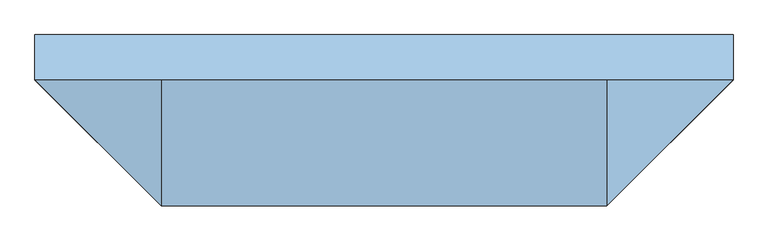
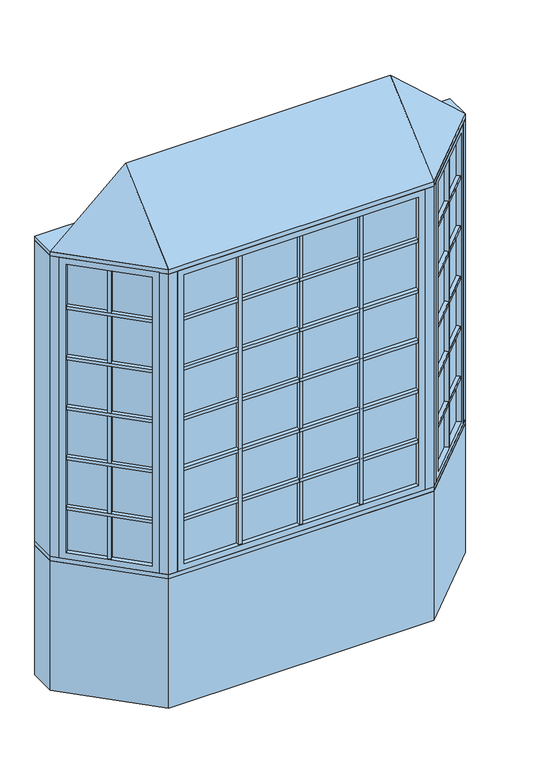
"""IFC4 building model written with IfcOpenShell, lengths in millimetres: window geometry, Pollard_Windows_Tudor Casement Bows and Bays : AML-BAY 45 AFR0618-12-500_GC."""

from ifc_helpers import new_model, si_unit, frame, origin, origin_with_axes, place, context, project, spatial, polyline, outline, extrude, faceted_brep, source, transform, mapped, element, save


def window_98602385(model_context):
    return source(origin(), model_context, "Body", "SolidModel", [
        extrude(outline(polyline([(809.3614193, -437.1108753), (793.8050701, -421.5545261), (1101.616171, -113.7434252), (1117.1725202, -129.2997743), (809.3614193, -437.1108753)])), frame((0.0, 0.0, 1690.998), z_axis=(0.0, 0.0, 1.0), x_axis=(1.0, 0.0, 0.0)), (0.0, 0.0, 1.0), 18.0),
        extrude(outline(polyline([(790.2129677, -417.9624236), (774.6566185, -402.4060744), (1082.4677194, -94.5949735), (1098.0240686, -110.1513227), (790.2129677, -417.9624236)])), frame((0.0, 0.0, 1690.998), z_axis=(0.0, 0.0, 1.0), x_axis=(1.0, 0.0, 0.0)), (0.0, 0.0, 1.0), 18.0),
        extrude(outline(polyline([(809.3614193, -437.1108753), (793.8050701, -421.5545261), (1101.616171, -113.7434252), (1117.1725202, -129.2997743), (809.3614193, -437.1108753)])), frame((0.0, 0.0, 1090.998), z_axis=(0.0, 0.0, 1.0), x_axis=(1.0, 0.0, 0.0)), (0.0, 0.0, 1.0), 18.0),
        extrude(outline(polyline([(790.2129677, -417.9624236), (774.6566185, -402.4060744), (1082.4677194, -94.5949735), (1098.0240686, -110.1513227), (790.2129677, -417.9624236)])), frame((0.0, 0.0, 1090.998), z_axis=(0.0, 0.0, 1.0), x_axis=(1.0, 0.0, 0.0)), (0.0, 0.0, 1.0), 18.0),
        extrude(outline(polyline([(809.3614193, -437.1108753), (793.8050701, -421.5545261), (1101.616171, -113.7434252), (1117.1725202, -129.2997743), (809.3614193, -437.1108753)])), frame((0.0, 0.0, 1390.998), z_axis=(0.0, 0.0, 1.0), x_axis=(1.0, 0.0, 0.0)), (0.0, 0.0, 1.0), 18.0),
        extrude(outline(polyline([(790.2129677, -417.9624236), (774.6566185, -402.4060744), (1082.4677194, -94.5949735), (1098.0240686, -110.1513227), (790.2129677, -417.9624236)])), frame((0.0, 0.0, 1390.998), z_axis=(0.0, 0.0, 1.0), x_axis=(1.0, 0.0, 0.0)), (0.0, 0.0, 1.0), 18.0),
        extrude(outline(polyline([(809.3614193, -437.1108753), (793.8050701, -421.5545261), (1101.616171, -113.7434252), (1117.1725202, -129.2997743), (809.3614193, -437.1108753)])), frame((0.0, 0.0, 1990.998), z_axis=(0.0, 0.0, 1.0), x_axis=(1.0, 0.0, 0.0)), (0.0, 0.0, 1.0), 18.0),
        extrude(outline(polyline([(790.2129677, -417.9624236), (774.6566185, -402.4060744), (1082.4677194, -94.5949735), (1098.0240686, -110.1513227), (790.2129677, -417.9624236)])), frame((0.0, 0.0, 1990.998), z_axis=(0.0, 0.0, 1.0), x_axis=(1.0, 0.0, 0.0)), (0.0, 0.0, 1.0), 18.0),
        extrude(outline(polyline([(809.3614193, -437.1108753), (793.8050701, -421.5545261), (1101.616171, -113.7434252), (1117.1725202, -129.2997743), (809.3614193, -437.1108753)])), frame((0.0, 0.0, 2290.998), z_axis=(0.0, 0.0, 1.0), x_axis=(1.0, 0.0, 0.0)), (0.0, 0.0, 1.0), 18.0),
        extrude(outline(polyline([(790.2129677, -417.9624236), (774.6566185, -402.4060744), (1082.4677194, -94.5949735), (1098.0240686, -110.1513227), (790.2129677, -417.9624236)])), frame((0.0, 0.0, 2290.998), z_axis=(0.0, 0.0, 1.0), x_axis=(1.0, 0.0, 0.0)), (0.0, 0.0, 1.0), 18.0),
        extrude(outline(polyline([(954.0745816, -261.2850146), (969.6309308, -276.8413638), (956.9030087, -289.5692858), (941.3466595, -274.0129366), (954.0745816, -261.2850146)])), frame((0.0, 0.0, 835.8628), z_axis=(0.0, 0.0, 1.0), x_axis=(1.0, 0.0, 0.0)), (0.0, 0.0, 1.0), 1728.2704),
        extrude(outline(polyline([(950.4824791, -257.6929121), (937.7545571, -270.4208342), (922.1982079, -254.864485), (934.92613, -242.1365629), (950.4824791, -257.6929121)])), frame((0.0, 0.0, 835.8628), z_axis=(0.0, 0.0, 1.0), x_axis=(1.0, 0.0, 0.0)), (0.0, 0.0, 1.0), 1728.2704),
        extrude(outline(polyline([(1110.5964271, -104.763169), (784.824814, -430.5347822), (781.2327115, -426.9426797), (1107.0043247, -101.1710666), (1110.5964271, -104.763169)])), frame((0.0, 0.0, 823.1628), z_axis=(0.0, 0.0, 1.0), x_axis=(1.0, 0.0, 0.0)), (0.0, 0.0, 1.0), 1753.6704),
        faceted_brep([(1101.616171, -113.7434252, 835.8628), (1119.5766833, -131.7039374, 835.8628), (1119.5766833, -131.7039374, 2564.1332), (1101.616171, -113.7434252, 2564.1332), (1107.0043247, -101.1710666, 823.1628), (1110.5964271, -104.763169, 823.1628), (1110.5964271, -104.763169, 2576.8332), (1107.0043247, -101.1710666, 2576.8332), (1080.0635563, -92.1908105, 835.8628), (1098.0240686, -110.1513227, 835.8628), (1098.0240686, -110.1513227, 2564.1332), (1080.0635563, -92.1908105, 2564.1332), (1144.9369265, -106.3436941, 799.998), (1105.4237996, -66.8305672, 799.998), (1105.4237996, -66.8305672, 2599.998), (1144.9369265, -106.3436941, 2599.998), (811.7655823, -439.5150383, 2564.1332), (793.8050701, -421.5545261, 2564.1332), (784.824814, -430.5347822, 2576.8332), (781.2327115, -426.9426797, 2576.8332), (790.2129677, -417.9624236, 2564.1332), (772.2524554, -400.0019114, 2564.1332), (746.8922121, -425.3621547, 2599.998), (786.4053391, -464.8752816, 2599.998), (811.7655823, -439.5150383, 835.8628), (793.8050701, -421.5545261, 835.8628), (784.824814, -430.5347822, 823.1628), (781.2327115, -426.9426797, 823.1628), (790.2129677, -417.9624236, 835.8628), (772.2524554, -400.0019114, 835.8628), (746.8922121, -425.3621547, 799.998), (786.4053391, -464.8752816, 799.998)], [[[0, 1, 2, 3]], [[4, 5, 6, 7]], [[8, 9, 10, 11]], [[12, 13, 14, 15]], [[3, 2, 16, 17]], [[7, 6, 18, 19]], [[11, 10, 20, 21]], [[15, 14, 22, 23]], [[17, 16, 24, 25]], [[19, 18, 26, 27]], [[21, 20, 28, 29]], [[23, 22, 30, 31]], [[25, 24, 1, 0]], [[5, 26, 18, 6], [3, 17, 25, 0]], [[27, 26, 5, 4]], [[7, 19, 27, 4], [9, 28, 20, 10]], [[29, 28, 9, 8]], [[13, 30, 22, 14], [11, 21, 29, 8]], [[31, 30, 13, 12]], [[15, 23, 31, 12], [1, 24, 16, 2]]]),
        extrude(outline(polyline([(352.4427, -474.8306207), (352.4427, -496.8306207), (334.4427, -496.8306207), (334.4427, -474.8306207), (352.4427, -474.8306207)])), frame((0.0, 0.0, 835.8628), z_axis=(0.0, 0.0, 1.0), x_axis=(1.0, 0.0, 0.0)), (0.0, 0.0, 1.0), 1728.2704),
        extrude(outline(polyline([(352.4427, -469.7506207), (334.4427, -469.7506207), (334.4427, -447.7506207), (352.4427, -447.7506207), (352.4427, -469.7506207)])), frame((0.0, 0.0, 835.8628), z_axis=(0.0, 0.0, 1.0), x_axis=(1.0, 0.0, 0.0)), (0.0, 0.0, 1.0), 1728.2704),
        extrude(outline(polyline([(-334.4427, -474.8306207), (-334.4427, -496.8306207), (-352.4427, -496.8306207), (-352.4427, -474.8306207), (-334.4427, -474.8306207)])), frame((0.0, 0.0, 835.8628), z_axis=(0.0, 0.0, 1.0), x_axis=(1.0, 0.0, 0.0)), (0.0, 0.0, 1.0), 1728.2704),
        extrude(outline(polyline([(-334.4427, -469.7506207), (-352.4427, -469.7506207), (-352.4427, -447.7506207), (-334.4427, -447.7506207), (-334.4427, -469.7506207)])), frame((0.0, 0.0, 835.8628), z_axis=(0.0, 0.0, 1.0), x_axis=(1.0, 0.0, 0.0)), (0.0, 0.0, 1.0), 1728.2704),
        extrude(outline(polyline([(-665.1852, -496.8306207), (-665.1852, -474.8306207), (665.1852, -474.8306207), (665.1852, -496.8306207), (-665.1852, -496.8306207)])), frame((0.0, 0.0, 1090.998), z_axis=(0.0, 0.0, 1.0), x_axis=(1.0, 0.0, 0.0)), (0.0, 0.0, 1.0), 18.0),
        extrude(outline(polyline([(-665.1852, -469.7506207), (-665.1852, -447.7506207), (665.1852, -447.7506207), (665.1852, -469.7506207), (-665.1852, -469.7506207)])), frame((0.0, 0.0, 1090.998), z_axis=(0.0, 0.0, 1.0), x_axis=(1.0, 0.0, 0.0)), (0.0, 0.0, 1.0), 18.0),
        extrude(outline(polyline([(-665.1852, -496.8306207), (-665.1852, -474.8306207), (665.1852, -474.8306207), (665.1852, -496.8306207), (-665.1852, -496.8306207)])), frame((0.0, 0.0, 1390.998), z_axis=(0.0, 0.0, 1.0), x_axis=(1.0, 0.0, 0.0)), (0.0, 0.0, 1.0), 18.0),
        extrude(outline(polyline([(-665.1852, -469.7506207), (-665.1852, -447.7506207), (665.1852, -447.7506207), (665.1852, -469.7506207), (-665.1852, -469.7506207)])), frame((0.0, 0.0, 1390.998), z_axis=(0.0, 0.0, 1.0), x_axis=(1.0, 0.0, 0.0)), (0.0, 0.0, 1.0), 18.0),
        extrude(outline(polyline([(-665.1852, -496.8306207), (-665.1852, -474.8306207), (665.1852, -474.8306207), (665.1852, -496.8306207), (-665.1852, -496.8306207)])), frame((0.0, 0.0, 1690.998), z_axis=(0.0, 0.0, 1.0), x_axis=(1.0, 0.0, 0.0)), (0.0, 0.0, 1.0), 18.0),
        extrude(outline(polyline([(-665.1852, -469.7506207), (-665.1852, -447.7506207), (665.1852, -447.7506207), (665.1852, -469.7506207), (-665.1852, -469.7506207)])), frame((0.0, 0.0, 1690.998), z_axis=(0.0, 0.0, 1.0), x_axis=(1.0, 0.0, 0.0)), (0.0, 0.0, 1.0), 18.0),
        extrude(outline(polyline([(-665.1852, -496.8306207), (-665.1852, -474.8306207), (665.1852, -474.8306207), (665.1852, -496.8306207), (-665.1852, -496.8306207)])), frame((0.0, 0.0, 1990.998), z_axis=(0.0, 0.0, 1.0), x_axis=(1.0, 0.0, 0.0)), (0.0, 0.0, 1.0), 18.0),
        extrude(outline(polyline([(-665.1852, -469.7506207), (-665.1852, -447.7506207), (665.1852, -447.7506207), (665.1852, -469.7506207), (-665.1852, -469.7506207)])), frame((0.0, 0.0, 1990.998), z_axis=(0.0, 0.0, 1.0), x_axis=(1.0, 0.0, 0.0)), (0.0, 0.0, 1.0), 18.0),
        extrude(outline(polyline([(-1117.1725202, -129.2997743), (-1101.616171, -113.7434252), (-793.8050701, -421.5545261), (-809.3614193, -437.1108753), (-1117.1725202, -129.2997743)])), frame((0.0, 0.0, 1090.998), z_axis=(0.0, 0.0, 1.0), x_axis=(1.0, 0.0, 0.0)), (0.0, 0.0, 1.0), 18.0),
        extrude(outline(polyline([(-1098.0240686, -110.1513227), (-1082.4677194, -94.5949735), (-774.6566185, -402.4060744), (-790.2129677, -417.9624236), (-1098.0240686, -110.1513227)])), frame((0.0, 0.0, 1090.998), z_axis=(0.0, 0.0, 1.0), x_axis=(1.0, 0.0, 0.0)), (0.0, 0.0, 1.0), 18.0),
        extrude(outline(polyline([(-1117.1725202, -129.2997743), (-1101.616171, -113.7434252), (-793.8050701, -421.5545261), (-809.3614193, -437.1108753), (-1117.1725202, -129.2997743)])), frame((0.0, 0.0, 1390.998), z_axis=(0.0, 0.0, 1.0), x_axis=(1.0, 0.0, 0.0)), (0.0, 0.0, 1.0), 18.0),
        extrude(outline(polyline([(-1098.0240686, -110.1513227), (-1082.4677194, -94.5949735), (-774.6566185, -402.4060744), (-790.2129677, -417.9624236), (-1098.0240686, -110.1513227)])), frame((0.0, 0.0, 1390.998), z_axis=(0.0, 0.0, 1.0), x_axis=(1.0, 0.0, 0.0)), (0.0, 0.0, 1.0), 18.0),
        extrude(outline(polyline([(-1117.1725202, -129.2997743), (-1101.616171, -113.7434252), (-793.8050701, -421.5545261), (-809.3614193, -437.1108753), (-1117.1725202, -129.2997743)])), frame((0.0, 0.0, 1690.998), z_axis=(0.0, 0.0, 1.0), x_axis=(1.0, 0.0, 0.0)), (0.0, 0.0, 1.0), 18.0),
        extrude(outline(polyline([(-1098.0240686, -110.1513227), (-1082.4677194, -94.5949735), (-774.6566185, -402.4060744), (-790.2129677, -417.9624236), (-1098.0240686, -110.1513227)])), frame((0.0, 0.0, 1690.998), z_axis=(0.0, 0.0, 1.0), x_axis=(1.0, 0.0, 0.0)), (0.0, 0.0, 1.0), 18.0),
        extrude(outline(polyline([(-1117.1725202, -129.2997743), (-1101.616171, -113.7434252), (-793.8050701, -421.5545261), (-809.3614193, -437.1108753), (-1117.1725202, -129.2997743)])), frame((0.0, 0.0, 1990.998), z_axis=(0.0, 0.0, 1.0), x_axis=(1.0, 0.0, 0.0)), (0.0, 0.0, 1.0), 18.0),
        extrude(outline(polyline([(-1098.0240686, -110.1513227), (-1082.4677194, -94.5949735), (-774.6566185, -402.4060744), (-790.2129677, -417.9624236), (-1098.0240686, -110.1513227)])), frame((0.0, 0.0, 1990.998), z_axis=(0.0, 0.0, 1.0), x_axis=(1.0, 0.0, 0.0)), (0.0, 0.0, 1.0), 18.0),
        extrude(outline(polyline([(-1117.1725202, -129.2997743), (-1101.616171, -113.7434252), (-793.8050701, -421.5545261), (-809.3614193, -437.1108753), (-1117.1725202, -129.2997743)])), frame((0.0, 0.0, 2290.998), z_axis=(0.0, 0.0, 1.0), x_axis=(1.0, 0.0, 0.0)), (0.0, 0.0, 1.0), 18.0),
        extrude(outline(polyline([(-1098.0240686, -110.1513227), (-1082.4677194, -94.5949735), (-774.6566185, -402.4060744), (-790.2129677, -417.9624236), (-1098.0240686, -110.1513227)])), frame((0.0, 0.0, 2290.998), z_axis=(0.0, 0.0, 1.0), x_axis=(1.0, 0.0, 0.0)), (0.0, 0.0, 1.0), 18.0),
        extrude(outline(polyline([(-665.1852, -496.8306207), (-665.1852, -474.8306207), (665.1852, -474.8306207), (665.1852, -496.8306207), (-665.1852, -496.8306207)])), frame((0.0, 0.0, 2290.998), z_axis=(0.0, 0.0, 1.0), x_axis=(1.0, 0.0, 0.0)), (0.0, 0.0, 1.0), 18.0),
        extrude(outline(polyline([(-665.1852, -469.7506207), (-665.1852, -447.7506207), (665.1852, -447.7506207), (665.1852, -469.7506207), (-665.1852, -469.7506207)])), frame((0.0, 0.0, 2290.998), z_axis=(0.0, 0.0, 1.0), x_axis=(1.0, 0.0, 0.0)), (0.0, 0.0, 1.0), 18.0),
        extrude(outline(polyline([(-941.3466595, -274.0129366), (-956.9030087, -289.5692858), (-969.6309308, -276.8413638), (-954.0745816, -261.2850146), (-941.3466595, -274.0129366)])), frame((0.0, 0.0, 835.8628), z_axis=(0.0, 0.0, 1.0), x_axis=(1.0, 0.0, 0.0)), (0.0, 0.0, 1.0), 1728.2704),
        extrude(outline(polyline([(-937.7545571, -270.4208342), (-950.4824791, -257.6929121), (-934.92613, -242.1365629), (-922.1982079, -254.864485), (-937.7545571, -270.4208342)])), frame((0.0, 0.0, 835.8628), z_axis=(0.0, 0.0, 1.0), x_axis=(1.0, 0.0, 0.0)), (0.0, 0.0, 1.0), 1728.2704),
        extrude(outline(polyline([(9.0, -474.8306207), (9.0, -496.8306207), (-9.0, -496.8306207), (-9.0, -474.8306207), (9.0, -474.8306207)])), frame((0.0, 0.0, 835.8628), z_axis=(0.0, 0.0, 1.0), x_axis=(1.0, 0.0, 0.0)), (0.0, 0.0, 1.0), 1728.2704),
        extrude(outline(polyline([(9.0, -469.7506207), (-9.0, -469.7506207), (-9.0, -447.7506207), (9.0, -447.7506207), (9.0, -469.7506207)])), frame((0.0, 0.0, 835.8628), z_axis=(0.0, 0.0, 1.0), x_axis=(1.0, 0.0, 0.0)), (0.0, 0.0, 1.0), 1728.2704),
        extrude(outline(polyline([(-784.824814, -430.5347822), (-1110.5964271, -104.763169), (-1107.0043247, -101.1710666), (-781.2327115, -426.9426797), (-784.824814, -430.5347822)])), frame((0.0, 0.0, 823.1628), z_axis=(0.0, 0.0, 1.0), x_axis=(1.0, 0.0, 0.0)), (0.0, 0.0, 1.0), 1753.6704),
        faceted_brep([(-790.2129677, -417.9624236, 2564.1332), (-772.2524554, -400.0019114, 2564.1332), (-772.2524554, -400.0019114, 835.8628), (-790.2129677, -417.9624236, 835.8628), (-784.824814, -430.5347822, 2576.8332), (-781.2327115, -426.9426797, 2576.8332), (-781.2327115, -426.9426797, 823.1628), (-784.824814, -430.5347822, 823.1628), (-811.7655823, -439.5150383, 2564.1332), (-793.8050701, -421.5545261, 2564.1332), (-793.8050701, -421.5545261, 835.8628), (-811.7655823, -439.5150383, 835.8628), (-746.8922121, -425.3621547, 2599.998), (-786.4053391, -464.8752816, 2599.998), (-786.4053391, -464.8752816, 799.998), (-746.8922121, -425.3621547, 799.998), (-1080.0635563, -92.1908105, 835.8628), (-1098.0240686, -110.1513227, 835.8628), (-1107.0043247, -101.1710666, 823.1628), (-1110.5964271, -104.763169, 823.1628), (-1101.616171, -113.7434252, 835.8628), (-1119.5766833, -131.7039374, 835.8628), (-1144.9369265, -106.3436941, 799.998), (-1105.4237996, -66.8305672, 799.998), (-1080.0635563, -92.1908105, 2564.1332), (-1098.0240686, -110.1513227, 2564.1332), (-1107.0043247, -101.1710666, 2576.8332), (-1110.5964271, -104.763169, 2576.8332), (-1101.616171, -113.7434252, 2564.1332), (-1119.5766833, -131.7039374, 2564.1332), (-1144.9369265, -106.3436941, 2599.998), (-1105.4237996, -66.8305672, 2599.998)], [[[0, 1, 2, 3]], [[4, 5, 6, 7]], [[8, 9, 10, 11]], [[12, 13, 14, 15]], [[3, 2, 16, 17]], [[7, 6, 18, 19]], [[11, 10, 20, 21]], [[15, 14, 22, 23]], [[17, 16, 24, 25]], [[19, 18, 26, 27]], [[21, 20, 28, 29]], [[23, 22, 30, 31]], [[15, 23, 31, 12], [1, 24, 16, 2]], [[25, 24, 1, 0]], [[5, 26, 18, 6], [3, 17, 25, 0]], [[27, 26, 5, 4]], [[7, 19, 27, 4], [9, 28, 20, 10]], [[29, 28, 9, 8]], [[13, 30, 22, 14], [11, 21, 29, 8]], [[31, 30, 13, 12]]]),
        extrude(outline(polyline([(677.8852, -474.8306207), (-677.8852, -474.8306207), (-677.8852, -469.7506207), (677.8852, -469.7506207), (677.8852, -474.8306207)])), frame((0.0, 0.0, 823.1628), z_axis=(0.0, 0.0, 1.0), x_axis=(1.0, 0.0, 0.0)), (0.0, 0.0, 1.0), 1753.6704),
        faceted_brep([(665.1852, -474.8306207, 835.8628), (665.1852, -500.2306207, 835.8628), (665.1852, -500.2306207, 2564.1332), (665.1852, -474.8306207, 2564.1332), (677.8852, -469.7506207, 823.1628), (677.8852, -474.8306207, 823.1628), (677.8852, -474.8306207, 2576.8332), (677.8852, -469.7506207, 2576.8332), (665.1852, -444.3506207, 835.8628), (665.1852, -469.7506207, 835.8628), (665.1852, -469.7506207, 2564.1332), (665.1852, -444.3506207, 2564.1332), (701.05, -500.2306207, 799.998), (701.05, -444.3506207, 799.998), (701.05, -444.3506207, 2599.998), (701.05, -500.2306207, 2599.998), (-665.1852, -500.2306207, 2564.1332), (-665.1852, -474.8306207, 2564.1332), (-677.8852, -474.8306207, 2576.8332), (-677.8852, -469.7506207, 2576.8332), (-665.1852, -469.7506207, 2564.1332), (-665.1852, -444.3506207, 2564.1332), (-701.05, -444.3506207, 2599.998), (-701.05, -500.2306207, 2599.998), (-665.1852, -500.2306207, 835.8628), (-665.1852, -474.8306207, 835.8628), (-677.8852, -474.8306207, 823.1628), (-677.8852, -469.7506207, 823.1628), (-665.1852, -469.7506207, 835.8628), (-665.1852, -444.3506207, 835.8628), (-701.05, -444.3506207, 799.998), (-701.05, -500.2306207, 799.998)], [[[0, 1, 2, 3]], [[4, 5, 6, 7]], [[8, 9, 10, 11]], [[12, 13, 14, 15]], [[3, 2, 16, 17]], [[7, 6, 18, 19]], [[11, 10, 20, 21]], [[15, 14, 22, 23]], [[17, 16, 24, 25]], [[19, 18, 26, 27]], [[21, 20, 28, 29]], [[23, 22, 30, 31]], [[15, 23, 31, 12], [1, 24, 16, 2]], [[25, 24, 1, 0]], [[5, 26, 18, 6], [3, 17, 25, 0]], [[27, 26, 5, 4]], [[7, 19, 27, 4], [9, 28, 20, 10]], [[29, 28, 9, 8]], [[13, 30, 22, 14], [11, 21, 29, 8]], [[31, 30, 13, 12]]]),
        faceted_brep([(1176.5, -74.7806207, 2625.398), (751.05, -500.2306207, 2625.398), (-751.05, -500.2306207, 2625.398), (-1176.5, -74.7806207, 2625.398), (-751.05, -74.7806207, 3006.398), (751.05, -74.7806207, 3006.398)], [[[0, 1, 2, 3]], [[3, 2, 4]], [[2, 1, 5, 4]], [[1, 0, 5]], [[0, 3, 4, 5]]]),
        extrude(outline(polyline([(-1176.5, 77.6193793), (1176.5, 77.6193793), (1176.5, -74.7806207), (751.05, -500.2306207), (-751.05, -500.2306207), (-1176.5, -74.7806207), (-1176.5, 77.6193793)])), frame((0.0, 0.0, 2599.998), z_axis=(0.0, 0.0, 1.0), x_axis=(1.0, 0.0, 0.0)), (0.0, 0.0, 1.0), 25.4),
        extrude(outline(polyline([(-1176.5, -74.7806207), (-1176.5, 77.6193793), (-1113.3738531, 77.6193793), (-1113.3738531, -74.7806207), (-1144.9369265, -106.3436941), (-1176.5, -74.7806207)])), frame((0.0, 0.0, 799.998), z_axis=(0.0, 0.0, 1.0), x_axis=(1.0, 0.0, 0.0)), (0.0, 0.0, 1.0), 1800.0),
        extrude(outline(polyline([(1176.5, 77.6193793), (1176.5, -74.7806207), (1144.9369265, -106.3436941), (1113.3738531, -74.7806207), (1113.3738531, 77.6193793), (1176.5, 77.6193793)])), frame((0.0, 0.0, 799.998), z_axis=(0.0, 0.0, 1.0), x_axis=(1.0, 0.0, 0.0)), (0.0, 0.0, 1.0), 1800.0),
        extrude(outline(polyline([(751.05, -500.2306207), (701.05, -500.2306207), (701.05, -450.2306207), (730.3393219, -450.2306207), (751.05, -429.5199425), (786.4053391, -464.8752816), (751.05, -500.2306207)])), frame((0.0, 0.0, 799.998), z_axis=(0.0, 0.0, 1.0), x_axis=(1.0, 0.0, 0.0)), (0.0, 0.0, 1.0), 1800.0),
        extrude(outline(polyline([(-751.05, -500.2306207), (-786.4053391, -464.8752816), (-751.05, -429.5199425), (-730.3393219, -450.2306207), (-701.05, -450.2306207), (-701.05, -500.2306207), (-751.05, -500.2306207)])), frame((0.0, 0.0, 799.998), z_axis=(0.0, 0.0, 1.0), x_axis=(1.0, 0.0, 0.0)), (0.0, 0.0, 1.0), 1800.0),
        extrude(outline(polyline([(-751.05, -500.2306207), (-1176.5, -74.7806207), (-1176.5, 77.6193793), (-1113.3738531, 77.6193793), (-687.9238531, -347.8306207), (687.9238531, -347.8306207), (1113.3738531, 77.6193793), (1176.5, 77.6193793), (1176.5, -74.7806207), (751.05, -500.2306207), (-751.05, -500.2306207)])), frame((0.0, 0.0, 774.598), z_axis=(0.0, 0.0, 1.0), x_axis=(1.0, 0.0, 0.0)), (0.0, 0.0, 1.0), 25.4),
        extrude(outline(polyline([(-1176.5, -74.7806207), (-1176.5, 77.6193793), (-1113.3738531, 77.6193793), (-687.9238531, -347.8306207), (687.9238531, -347.8306207), (1113.3738531, 77.6193793), (1176.5, 77.6193793), (1176.5, -74.7806207), (751.05, -500.2306207), (-751.05, -500.2306207), (-1176.5, -74.7806207)])), origin_with_axes(), (0.0, 0.0, 1.0), 774.598),
    ])


if __name__ == "__main__":
    model = new_model("IFC4")
    model_context = context("Model", 3, world=origin())
    ifc_project = project(units=[si_unit("LENGTHUNIT", "METRE", prefix="MILLI")], contexts=[model_context])
    site = spatial("IfcSite", under=ifc_project)
    building = spatial("IfcBuilding", under=site)
    placement = place(None, origin())
    window_shape = window_98602385(model_context)
    element("IfcWindow", 1, ObjectType="Pollard_Windows_Tudor Casement Bows and Bays : AML-BAY 45 AFR0618-12-500_GC", at=placement, inside=building, context=model_context, shape_type="MappedRepresentation", body=[
        mapped(window_shape, transform((0.0, 0.0, 0.0), x_axis=(1.0, 0.0, 0.0), y_axis=(0.0, 1.0, 0.0), z_axis=(0.0, 0.0, 1.0))),
    ])
    save(model, "model.ifc")
